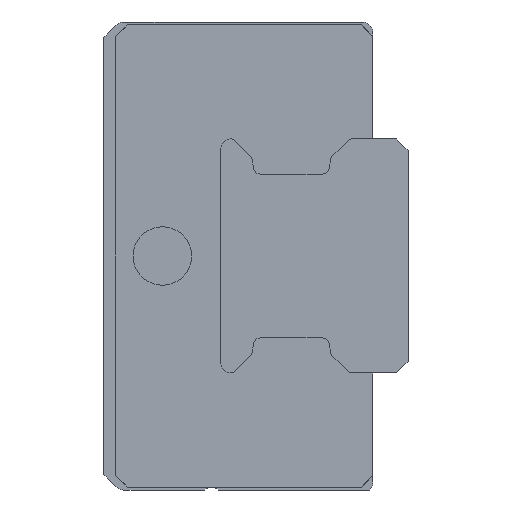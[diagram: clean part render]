
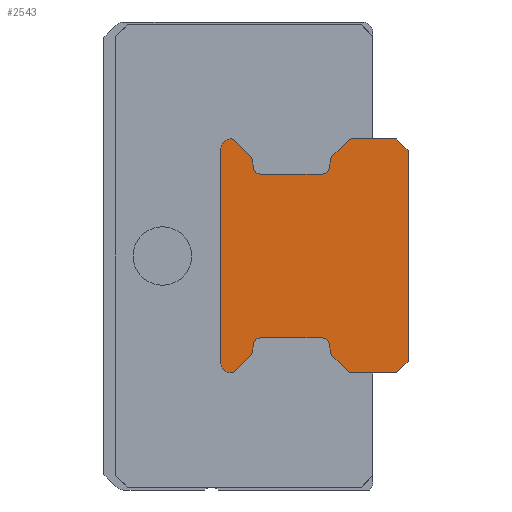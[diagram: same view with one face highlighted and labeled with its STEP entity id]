
A CAD part, left-side view. The second image highlights one B-rep face of the part: STEP entity #2543.
In plain terms, the highlighted planar face has unit normal (-1, 0, 0).
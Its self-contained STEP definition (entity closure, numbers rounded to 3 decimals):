
#49=CIRCLE('',#2683,0.15);
#51=CIRCLE('',#2687,0.15);
#53=CIRCLE('',#2691,0.3);
#55=CIRCLE('',#2695,0.3);
#57=CIRCLE('',#2699,0.15);
#59=CIRCLE('',#2703,0.15);
#66=CIRCLE('',#2716,0.15);
#68=CIRCLE('',#2720,0.15);
#70=CIRCLE('',#2724,0.3);
#72=CIRCLE('',#2728,0.3);
#74=CIRCLE('',#2732,0.15);
#76=CIRCLE('',#2736,0.15);
#78=CIRCLE('',#2740,0.4);
#85=CIRCLE('',#2749,0.4);
#370=ORIENTED_EDGE('',*,*,#920,.F.);
#371=ORIENTED_EDGE('',*,*,#1024,.F.);
#372=ORIENTED_EDGE('',*,*,#1021,.F.);
#373=ORIENTED_EDGE('',*,*,#1013,.F.);
#374=ORIENTED_EDGE('',*,*,#1010,.F.);
#375=ORIENTED_EDGE('',*,*,#1007,.F.);
#376=ORIENTED_EDGE('',*,*,#1004,.F.);
#377=ORIENTED_EDGE('',*,*,#1001,.F.);
#378=ORIENTED_EDGE('',*,*,#998,.F.);
#379=ORIENTED_EDGE('',*,*,#995,.T.);
#380=ORIENTED_EDGE('',*,*,#992,.F.);
#381=ORIENTED_EDGE('',*,*,#989,.T.);
#382=ORIENTED_EDGE('',*,*,#986,.F.);
#383=ORIENTED_EDGE('',*,*,#983,.F.);
#384=ORIENTED_EDGE('',*,*,#980,.F.);
#385=ORIENTED_EDGE('',*,*,#977,.F.);
#386=ORIENTED_EDGE('',*,*,#974,.F.);
#387=ORIENTED_EDGE('',*,*,#971,.F.);
#388=ORIENTED_EDGE('',*,*,#968,.F.);
#389=ORIENTED_EDGE('',*,*,#960,.F.);
#390=ORIENTED_EDGE('',*,*,#957,.F.);
#391=ORIENTED_EDGE('',*,*,#954,.F.);
#392=ORIENTED_EDGE('',*,*,#951,.F.);
#393=ORIENTED_EDGE('',*,*,#948,.F.);
#394=ORIENTED_EDGE('',*,*,#945,.F.);
#395=ORIENTED_EDGE('',*,*,#942,.T.);
#396=ORIENTED_EDGE('',*,*,#939,.F.);
#397=ORIENTED_EDGE('',*,*,#936,.T.);
#398=ORIENTED_EDGE('',*,*,#933,.F.);
#399=ORIENTED_EDGE('',*,*,#930,.F.);
#400=ORIENTED_EDGE('',*,*,#927,.F.);
#401=ORIENTED_EDGE('',*,*,#924,.F.);
#920=EDGE_CURVE('',#1280,#1281,#1536,.T.);
#924=EDGE_CURVE('',#1281,#1284,#49,.T.);
#927=EDGE_CURVE('',#1284,#1286,#1541,.T.);
#930=EDGE_CURVE('',#1286,#1288,#51,.T.);
#933=EDGE_CURVE('',#1288,#1290,#1545,.T.);
#936=EDGE_CURVE('',#1292,#1290,#53,.T.);
#939=EDGE_CURVE('',#1292,#1294,#1549,.T.);
#942=EDGE_CURVE('',#1296,#1294,#55,.T.);
#945=EDGE_CURVE('',#1296,#1298,#1553,.T.);
#948=EDGE_CURVE('',#1298,#1300,#57,.T.);
#951=EDGE_CURVE('',#1300,#1302,#1557,.T.);
#954=EDGE_CURVE('',#1302,#1304,#59,.T.);
#957=EDGE_CURVE('',#1304,#1306,#1561,.T.);
#960=EDGE_CURVE('',#1306,#1308,#1564,.T.);
#968=EDGE_CURVE('',#1308,#1315,#1567,.T.);
#971=EDGE_CURVE('',#1315,#1317,#1570,.T.);
#974=EDGE_CURVE('',#1317,#1319,#1573,.T.);
#977=EDGE_CURVE('',#1319,#1321,#66,.T.);
#980=EDGE_CURVE('',#1321,#1323,#1577,.T.);
#983=EDGE_CURVE('',#1323,#1325,#68,.T.);
#986=EDGE_CURVE('',#1325,#1327,#1581,.T.);
#989=EDGE_CURVE('',#1329,#1327,#70,.T.);
#992=EDGE_CURVE('',#1329,#1331,#1585,.T.);
#995=EDGE_CURVE('',#1333,#1331,#72,.T.);
#998=EDGE_CURVE('',#1333,#1335,#1589,.T.);
#1001=EDGE_CURVE('',#1335,#1337,#74,.T.);
#1004=EDGE_CURVE('',#1337,#1339,#1593,.T.);
#1007=EDGE_CURVE('',#1339,#1341,#76,.T.);
#1010=EDGE_CURVE('',#1341,#1343,#1597,.T.);
#1013=EDGE_CURVE('',#1343,#1345,#78,.T.);
#1021=EDGE_CURVE('',#1345,#1352,#1601,.T.);
#1024=EDGE_CURVE('',#1352,#1280,#85,.T.);
#1280=VERTEX_POINT('',#3688);
#1281=VERTEX_POINT('',#3689);
#1284=VERTEX_POINT('',#3697);
#1286=VERTEX_POINT('',#3703);
#1288=VERTEX_POINT('',#3709);
#1290=VERTEX_POINT('',#3715);
#1292=VERTEX_POINT('',#3721);
#1294=VERTEX_POINT('',#3727);
#1296=VERTEX_POINT('',#3733);
#1298=VERTEX_POINT('',#3739);
#1300=VERTEX_POINT('',#3745);
#1302=VERTEX_POINT('',#3751);
#1304=VERTEX_POINT('',#3757);
#1306=VERTEX_POINT('',#3763);
#1308=VERTEX_POINT('',#3769);
#1315=VERTEX_POINT('',#3785);
#1317=VERTEX_POINT('',#3791);
#1319=VERTEX_POINT('',#3797);
#1321=VERTEX_POINT('',#3803);
#1323=VERTEX_POINT('',#3809);
#1325=VERTEX_POINT('',#3815);
#1327=VERTEX_POINT('',#3821);
#1329=VERTEX_POINT('',#3827);
#1331=VERTEX_POINT('',#3833);
#1333=VERTEX_POINT('',#3839);
#1335=VERTEX_POINT('',#3845);
#1337=VERTEX_POINT('',#3851);
#1339=VERTEX_POINT('',#3857);
#1341=VERTEX_POINT('',#3863);
#1343=VERTEX_POINT('',#3869);
#1345=VERTEX_POINT('',#3875);
#1352=VERTEX_POINT('',#3891);
#1536=LINE('',#3687,#1794);
#1541=LINE('',#3702,#1799);
#1545=LINE('',#3714,#1803);
#1549=LINE('',#3726,#1807);
#1553=LINE('',#3738,#1811);
#1557=LINE('',#3750,#1815);
#1561=LINE('',#3762,#1819);
#1564=LINE('',#3768,#1822);
#1567=LINE('',#3784,#1825);
#1570=LINE('',#3790,#1828);
#1573=LINE('',#3796,#1831);
#1577=LINE('',#3808,#1835);
#1581=LINE('',#3820,#1839);
#1585=LINE('',#3832,#1843);
#1589=LINE('',#3844,#1847);
#1593=LINE('',#3856,#1851);
#1597=LINE('',#3868,#1855);
#1601=LINE('',#3890,#1859);
#1794=VECTOR('',#2933,1000.);
#1799=VECTOR('',#2946,1000.);
#1803=VECTOR('',#2958,1000.);
#1807=VECTOR('',#2970,1000.);
#1811=VECTOR('',#2982,1000.);
#1815=VECTOR('',#2994,1000.);
#1819=VECTOR('',#3006,1000.);
#1822=VECTOR('',#3011,1000.);
#1825=VECTOR('',#3026,1000.);
#1828=VECTOR('',#3031,1000.);
#1831=VECTOR('',#3036,1000.);
#1835=VECTOR('',#3048,1000.);
#1839=VECTOR('',#3060,1000.);
#1843=VECTOR('',#3072,1000.);
#1847=VECTOR('',#3084,1000.);
#1851=VECTOR('',#3096,1000.);
#1855=VECTOR('',#3108,1000.);
#1859=VECTOR('',#3130,1000.);
#2095=EDGE_LOOP('',(#370,#371,#372,#373,#374,#375,#376,#377,#378,#379,#380,
#381,#382,#383,#384,#385,#386,#387,#388,#389,#390,#391,#392,#393,#394,#395,
#396,#397,#398,#399,#400,#401));
#2279=FACE_BOUND('',#2095,.T.);
#2443=PLANE('',#2752);
#2543=ADVANCED_FACE('',(#2279),#2443,.F.);
#2683=AXIS2_PLACEMENT_3D('',#3696,#2939,#2940);
#2687=AXIS2_PLACEMENT_3D('',#3708,#2951,#2952);
#2691=AXIS2_PLACEMENT_3D('',#3720,#2963,#2964);
#2695=AXIS2_PLACEMENT_3D('',#3732,#2975,#2976);
#2699=AXIS2_PLACEMENT_3D('',#3744,#2987,#2988);
#2703=AXIS2_PLACEMENT_3D('',#3756,#2999,#3000);
#2716=AXIS2_PLACEMENT_3D('',#3802,#3041,#3042);
#2720=AXIS2_PLACEMENT_3D('',#3814,#3053,#3054);
#2724=AXIS2_PLACEMENT_3D('',#3826,#3065,#3066);
#2728=AXIS2_PLACEMENT_3D('',#3838,#3077,#3078);
#2732=AXIS2_PLACEMENT_3D('',#3850,#3089,#3090);
#2736=AXIS2_PLACEMENT_3D('',#3862,#3101,#3102);
#2740=AXIS2_PLACEMENT_3D('',#3874,#3113,#3114);
#2749=AXIS2_PLACEMENT_3D('',#3896,#3135,#3136);
#2752=AXIS2_PLACEMENT_3D('',#3899,#3141,#3142);
#2933=DIRECTION('',(0.,-1.,0.));
#2939=DIRECTION('',(1.,0.,0.));
#2940=DIRECTION('',(0.,0.,-1.));
#2946=DIRECTION('',(0.,-0.707,-0.707));
#2951=DIRECTION('',(1.,0.,0.));
#2952=DIRECTION('',(0.,0.,-1.));
#2958=DIRECTION('',(0.,-0.174,-0.985));
#2963=DIRECTION('',(1.,0.,0.));
#2964=DIRECTION('',(0.,0.,-1.));
#2970=DIRECTION('',(0.,-1.,0.));
#2975=DIRECTION('',(1.,0.,0.));
#2976=DIRECTION('',(0.,0.,-1.));
#2982=DIRECTION('',(0.,-0.174,0.985));
#2987=DIRECTION('',(1.,0.,0.));
#2988=DIRECTION('',(0.,0.,-1.));
#2994=DIRECTION('',(0.,-0.707,0.707));
#2999=DIRECTION('',(1.,0.,0.));
#3000=DIRECTION('',(0.,0.,-1.));
#3006=DIRECTION('',(0.,-1.,0.));
#3011=DIRECTION('',(0.,-0.707,-0.707));
#3026=DIRECTION('',(0.,0.,-1.));
#3031=DIRECTION('',(0.,0.707,-0.707));
#3036=DIRECTION('',(0.,1.,0.));
#3041=DIRECTION('',(1.,0.,0.));
#3042=DIRECTION('',(0.,0.,-1.));
#3048=DIRECTION('',(0.,0.707,0.707));
#3053=DIRECTION('',(1.,0.,0.));
#3054=DIRECTION('',(0.,0.,-1.));
#3060=DIRECTION('',(0.,0.174,0.985));
#3065=DIRECTION('',(1.,0.,0.));
#3066=DIRECTION('',(0.,0.,-1.));
#3072=DIRECTION('',(0.,1.,0.));
#3077=DIRECTION('',(1.,0.,0.));
#3078=DIRECTION('',(0.,0.,-1.));
#3084=DIRECTION('',(0.,0.174,-0.985));
#3089=DIRECTION('',(1.,0.,0.));
#3090=DIRECTION('',(0.,0.,-1.));
#3096=DIRECTION('',(0.,0.707,-0.707));
#3101=DIRECTION('',(1.,0.,0.));
#3102=DIRECTION('',(0.,0.,-1.));
#3108=DIRECTION('',(0.,1.,0.));
#3113=DIRECTION('',(1.,0.,0.));
#3114=DIRECTION('',(0.,0.,-1.));
#3130=DIRECTION('',(0.,0.,1.));
#3135=DIRECTION('',(1.,0.,0.));
#3136=DIRECTION('',(0.,0.,-1.));
#3141=DIRECTION('',(1.,0.,0.));
#3142=DIRECTION('',(0.,0.,-1.));
#3687=CARTESIAN_POINT('',(-10.,7.6,5.));
#3688=CARTESIAN_POINT('',(-10.,7.6,5.));
#3689=CARTESIAN_POINT('',(-10.,7.542,5.));
#3696=CARTESIAN_POINT('',(-10.,7.542,4.85));
#3697=CARTESIAN_POINT('',(-10.,7.436,4.956));
#3702=CARTESIAN_POINT('',(-10.,7.436,4.956));
#3703=CARTESIAN_POINT('',(-10.,6.718,4.238));
#3708=CARTESIAN_POINT('',(-10.,6.824,4.132));
#3709=CARTESIAN_POINT('',(-10.,6.676,4.158));
#3714=CARTESIAN_POINT('',(-10.,6.676,4.158));
#3715=CARTESIAN_POINT('',(-10.,6.604,3.748));
#3720=CARTESIAN_POINT('',(-10.,6.308,3.8));
#3721=CARTESIAN_POINT('',(-10.,6.308,3.5));
#3726=CARTESIAN_POINT('',(-10.,6.308,3.5));
#3727=CARTESIAN_POINT('',(-10.,3.672,3.5));
#3732=CARTESIAN_POINT('',(-10.,3.672,3.8));
#3733=CARTESIAN_POINT('',(-10.,3.376,3.748));
#3738=CARTESIAN_POINT('',(-10.,3.376,3.748));
#3739=CARTESIAN_POINT('',(-10.,3.304,4.158));
#3744=CARTESIAN_POINT('',(-10.,3.156,4.132));
#3745=CARTESIAN_POINT('',(-10.,3.262,4.238));
#3750=CARTESIAN_POINT('',(-10.,3.262,4.238));
#3751=CARTESIAN_POINT('',(-10.,2.544,4.956));
#3756=CARTESIAN_POINT('',(-10.,2.438,4.85));
#3757=CARTESIAN_POINT('',(-10.,2.438,5.));
#3762=CARTESIAN_POINT('',(-10.,2.438,5.));
#3763=CARTESIAN_POINT('',(-10.,0.5,5.));
#3768=CARTESIAN_POINT('',(-10.,0.5,5.));
#3769=CARTESIAN_POINT('',(-10.,0.,4.5));
#3784=CARTESIAN_POINT('',(-10.,0.,4.5));
#3785=CARTESIAN_POINT('',(-10.,0.,-4.5));
#3790=CARTESIAN_POINT('',(-10.,0.,-4.5));
#3791=CARTESIAN_POINT('',(-10.,0.5,-5.));
#3796=CARTESIAN_POINT('',(-10.,0.5,-5.));
#3797=CARTESIAN_POINT('',(-10.,2.438,-5.));
#3802=CARTESIAN_POINT('',(-10.,2.438,-4.85));
#3803=CARTESIAN_POINT('',(-10.,2.544,-4.956));
#3808=CARTESIAN_POINT('',(-10.,2.544,-4.956));
#3809=CARTESIAN_POINT('',(-10.,3.262,-4.238));
#3814=CARTESIAN_POINT('',(-10.,3.156,-4.132));
#3815=CARTESIAN_POINT('',(-10.,3.304,-4.158));
#3820=CARTESIAN_POINT('',(-10.,3.304,-4.158));
#3821=CARTESIAN_POINT('',(-10.,3.376,-3.748));
#3826=CARTESIAN_POINT('',(-10.,3.672,-3.8));
#3827=CARTESIAN_POINT('',(-10.,3.672,-3.5));
#3832=CARTESIAN_POINT('',(-10.,3.672,-3.5));
#3833=CARTESIAN_POINT('',(-10.,6.308,-3.5));
#3838=CARTESIAN_POINT('',(-10.,6.308,-3.8));
#3839=CARTESIAN_POINT('',(-10.,6.604,-3.748));
#3844=CARTESIAN_POINT('',(-10.,6.604,-3.748));
#3845=CARTESIAN_POINT('',(-10.,6.676,-4.158));
#3850=CARTESIAN_POINT('',(-10.,6.824,-4.132));
#3851=CARTESIAN_POINT('',(-10.,6.718,-4.238));
#3856=CARTESIAN_POINT('',(-10.,6.718,-4.238));
#3857=CARTESIAN_POINT('',(-10.,7.436,-4.956));
#3862=CARTESIAN_POINT('',(-10.,7.542,-4.85));
#3863=CARTESIAN_POINT('',(-10.,7.542,-5.));
#3868=CARTESIAN_POINT('',(-10.,7.542,-5.));
#3869=CARTESIAN_POINT('',(-10.,7.6,-5.));
#3874=CARTESIAN_POINT('',(-10.,7.6,-4.6));
#3875=CARTESIAN_POINT('',(-10.,8.,-4.6));
#3890=CARTESIAN_POINT('',(-10.,8.,-4.6));
#3891=CARTESIAN_POINT('',(-10.,8.,4.6));
#3896=CARTESIAN_POINT('',(-10.,7.6,4.6));
#3899=CARTESIAN_POINT('',(-10.,7.542,4.85));
